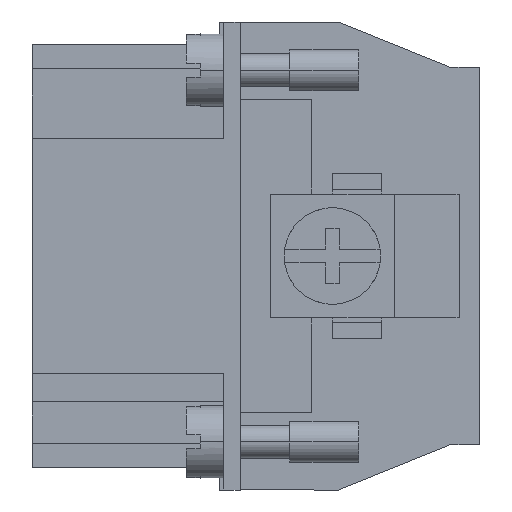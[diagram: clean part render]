
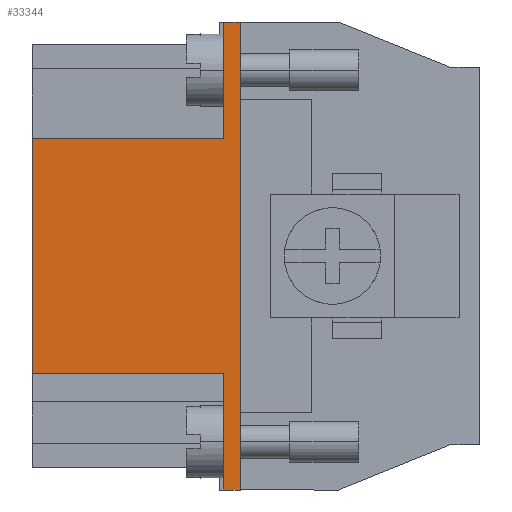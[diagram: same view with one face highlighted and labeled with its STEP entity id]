
A CAD part, left-side view. The second image highlights one B-rep face of the part: STEP entity #33344.
In plain terms, the highlighted planar face has unit normal (-1, 0, 0).
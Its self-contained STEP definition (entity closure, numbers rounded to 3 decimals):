
#1264 = LINE ( 'NONE', #13711, #31156 ) ;
#1903 = VERTEX_POINT ( 'NONE', #19869 ) ;
#2435 = ORIENTED_EDGE ( 'NONE', *, *, #31394, .F. ) ;
#3674 = ORIENTED_EDGE ( 'NONE', *, *, #14964, .F. ) ;
#4144 = EDGE_CURVE ( 'NONE', #17062, #12571, #4529, .T. ) ;
#4529 = LINE ( 'NONE', #18107, #27587 ) ;
#5360 = VERTEX_POINT ( 'NONE', #22267 ) ;
#5385 = ORIENTED_EDGE ( 'NONE', *, *, #4144, .T. ) ;
#5603 = PLANE ( 'NONE',  #11545 ) ;
#5611 = CARTESIAN_POINT ( 'NONE',  ( -55.5, -15.1, 17. ) ) ;
#5720 = LINE ( 'NONE', #31622, #33977 ) ;
#5750 = CARTESIAN_POINT ( 'NONE',  ( -55.5, -13.9, -17. ) ) ;
#5803 = LINE ( 'NONE', #5750, #35351 ) ;
#5961 = DIRECTION ( 'NONE',  ( -1., 0., 0. ) ) ;
#6259 = CARTESIAN_POINT ( 'NONE',  ( -55.5, -13.9, -17. ) ) ;
#6646 = CARTESIAN_POINT ( 'NONE',  ( -55.5, -13.9, -8.55 ) ) ;
#8307 = DIRECTION ( 'NONE',  ( 0., 1., 0. ) ) ;
#8741 = DIRECTION ( 'NONE',  ( 0., 0., 1. ) ) ;
#8786 = DIRECTION ( 'NONE',  ( 0., 0., -1. ) ) ;
#8868 = DIRECTION ( 'NONE',  ( 0., 1., 0. ) ) ;
#9035 = LINE ( 'NONE', #33650, #26129 ) ;
#10004 = VERTEX_POINT ( 'NONE', #23774 ) ;
#10940 = VECTOR ( 'NONE', #33496, 1000. ) ;
#11375 = EDGE_CURVE ( 'NONE', #5360, #1903, #5803, .T. ) ;
#11545 = AXIS2_PLACEMENT_3D ( 'NONE', #14175, #5961, #8868 ) ;
#12571 = VERTEX_POINT ( 'NONE', #35280 ) ;
#12730 = EDGE_CURVE ( 'NONE', #5360, #27481, #1264, .T. ) ;
#13711 = CARTESIAN_POINT ( 'NONE',  ( -55.5, -13.9, -17. ) ) ;
#14147 = VERTEX_POINT ( 'NONE', #28560 ) ;
#14175 = CARTESIAN_POINT ( 'NONE',  ( -55.5, -34.241, 8.55 ) ) ;
#14814 = ORIENTED_EDGE ( 'NONE', *, *, #33241, .F. ) ;
#14964 = EDGE_CURVE ( 'NONE', #17062, #14147, #34880, .T. ) ;
#15912 = VECTOR ( 'NONE', #8307, 1000. ) ;
#16166 = CARTESIAN_POINT ( 'NONE',  ( -55.5, -34.241, -8.55 ) ) ;
#16928 = EDGE_CURVE ( 'NONE', #10004, #12571, #5720, .T. ) ;
#17062 = VERTEX_POINT ( 'NONE', #28273 ) ;
#17297 = ORIENTED_EDGE ( 'NONE', *, *, #11375, .T. ) ;
#18107 = CARTESIAN_POINT ( 'NONE',  ( -55.5, -34.241, 8.55 ) ) ;
#19487 = LINE ( 'NONE', #26138, #24629 ) ;
#19869 = CARTESIAN_POINT ( 'NONE',  ( -55.5, -15.1, -17. ) ) ;
#20541 = ORIENTED_EDGE ( 'NONE', *, *, #16928, .F. ) ;
#21465 = LINE ( 'NONE', #16166, #15912 ) ;
#22267 = CARTESIAN_POINT ( 'NONE',  ( -55.5, -13.9, -17. ) ) ;
#23774 = CARTESIAN_POINT ( 'NONE',  ( -55.5, 0., -8.55 ) ) ;
#24291 = EDGE_CURVE ( 'NONE', #14147, #26322, #19487, .T. ) ;
#24629 = VECTOR ( 'NONE', #26037, 1000. ) ;
#24655 = ORIENTED_EDGE ( 'NONE', *, *, #24291, .F. ) ;
#26037 = DIRECTION ( 'NONE',  ( 0., -1., 0. ) ) ;
#26129 = VECTOR ( 'NONE', #8786, 1000. ) ;
#26138 = CARTESIAN_POINT ( 'NONE',  ( -55.5, -13.9, 17. ) ) ;
#26322 = VERTEX_POINT ( 'NONE', #5611 ) ;
#27481 = VERTEX_POINT ( 'NONE', #6646 ) ;
#27587 = VECTOR ( 'NONE', #32010, 1000. ) ;
#27723 = DIRECTION ( 'NONE',  ( 0., -1., 0. ) ) ;
#27825 = ORIENTED_EDGE ( 'NONE', *, *, #12730, .F. ) ;
#28273 = CARTESIAN_POINT ( 'NONE',  ( -55.5, -13.9, 8.55 ) ) ;
#28560 = CARTESIAN_POINT ( 'NONE',  ( -55.5, -13.9, 17. ) ) ;
#29671 = FACE_OUTER_BOUND ( 'NONE', #33041, .T. ) ;
#31156 = VECTOR ( 'NONE', #8741, 1000. ) ;
#31394 = EDGE_CURVE ( 'NONE', #27481, #10004, #21465, .T. ) ;
#31622 = CARTESIAN_POINT ( 'NONE',  ( -55.5, 0., 8.55 ) ) ;
#32010 = DIRECTION ( 'NONE',  ( 0., 1., 0. ) ) ;
#33041 = EDGE_LOOP ( 'NONE', ( #3674, #5385, #20541, #2435, #27825, #17297, #14814, #24655 ) ) ;
#33241 = EDGE_CURVE ( 'NONE', #26322, #1903, #9035, .T. ) ;
#33344 = ADVANCED_FACE ( 'NONE', ( #29671 ), #5603, .T. ) ;
#33496 = DIRECTION ( 'NONE',  ( 0., 0., 1. ) ) ;
#33650 = CARTESIAN_POINT ( 'NONE',  ( -55.5, -15.1, 8.55 ) ) ;
#33977 = VECTOR ( 'NONE', #34243, 1000. ) ;
#34243 = DIRECTION ( 'NONE',  ( 0., 0., 1. ) ) ;
#34880 = LINE ( 'NONE', #6259, #10940 ) ;
#35280 = CARTESIAN_POINT ( 'NONE',  ( -55.5, 0., 8.55 ) ) ;
#35351 = VECTOR ( 'NONE', #27723, 1000. ) ;
